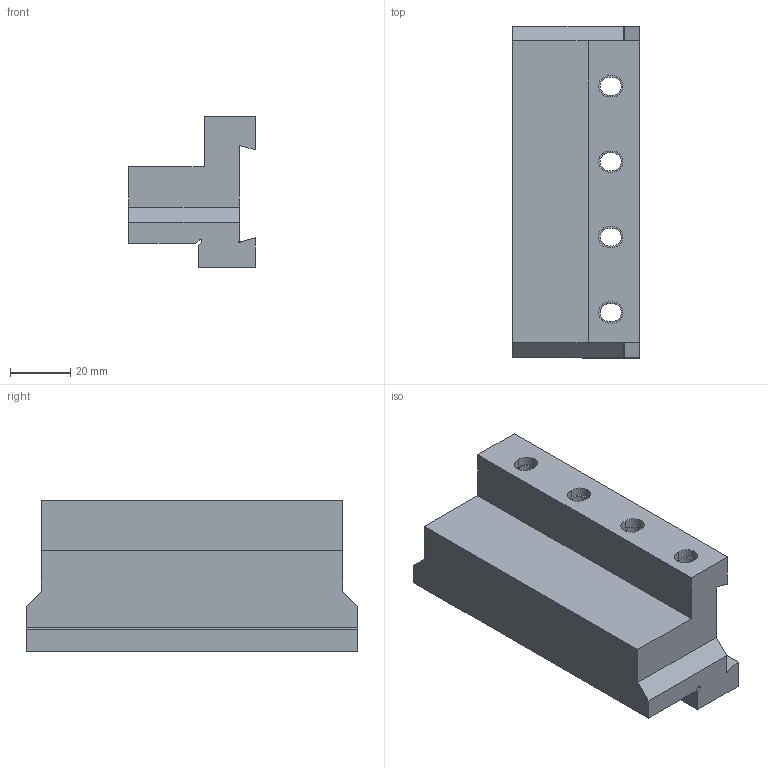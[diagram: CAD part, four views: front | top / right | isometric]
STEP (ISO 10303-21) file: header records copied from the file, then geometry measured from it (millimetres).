
FILE_DESCRIPTION(/* description */ (''),/* implementation_level */ '2;1');
FILE_NAME(/* name */ 'SMBBA1012-HAAS.stp',/* time_stamp */ '2020-10-14T14:29:55+09:00',/* author */ (''),/* organization */ (''),/* preprocessor_version */ 'ST-DEVELOPER v16',/* originating_system */ 'SIEMENS PLM Software NX 10.0',/* authorisation */ '');
FILE_SCHEMA (('CONFIG_CONTROL_DESIGN'));
Length unit declared in the file: millimetre
Products named in the file (1): model2
Bounding box: 42 x 110 x 50 mm (x, y, z)
Volume: 131775 mm3; surface area: 27811.3 mm2
Topology: 1 solids, 1 shells, 42 faces, 108 edges, 72 vertices
Faces by surface type: plane 24, cylinder 18
Entity records: 1388 total; most frequent: DIRECTION 230, CARTESIAN_POINT 223, ORIENTED_EDGE 216, EDGE_CURVE 108, AXIS2_PLACEMENT_3D 79, VERTEX_POINT 72, LINE 72, VECTOR 72
